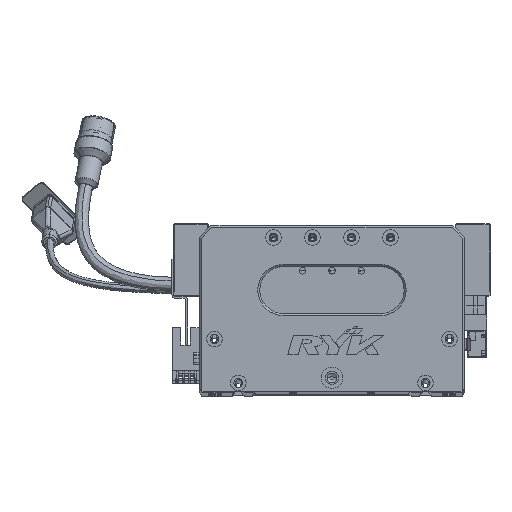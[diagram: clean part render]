
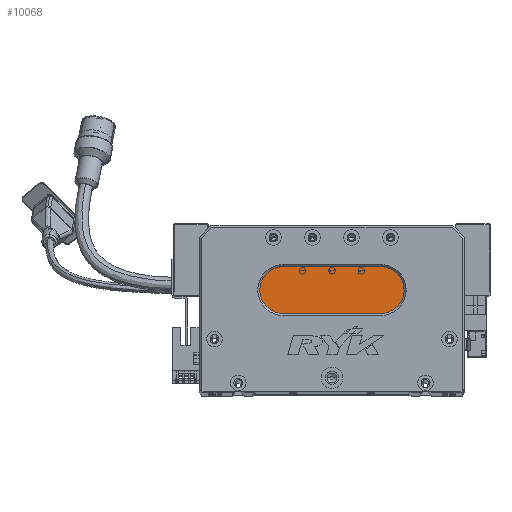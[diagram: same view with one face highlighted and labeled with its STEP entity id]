
A CAD part, top view. The second image highlights one B-rep face of the part: STEP entity #10068.
In plain terms, the highlighted planar face has unit normal (0, 0, 1) as drawn and (0, 0, -1) by its records, which use the part's own axes.
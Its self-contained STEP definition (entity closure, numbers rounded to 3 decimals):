
#172 = PLANE ( 'NONE',  #22821 ) ;
#6010 = CARTESIAN_POINT ( 'NONE',  ( 31., 52., 13. ) ) ;
#7843 = AXIS2_PLACEMENT_3D ( 'NONE', #33854, #54584, #61471 ) ;
#8288 = DIRECTION ( 'NONE',  ( -1., 0., 0. ) ) ;
#9549 = CARTESIAN_POINT ( 'NONE',  ( 93., 64., 13. ) ) ;
#10068 = ADVANCED_FACE ( 'NONE', ( #34088 ), #172, .T. ) ;
#11518 = CARTESIAN_POINT ( 'NONE',  ( 93., 64., 13. ) ) ;
#11894 = ORIENTED_EDGE ( 'NONE', *, *, #31680, .T. ) ;
#13527 = DIRECTION ( 'NONE',  ( -1., 0., 0. ) ) ;
#16233 = VERTEX_POINT ( 'NONE', #35785 ) ;
#21263 = DIRECTION ( 'NONE',  ( 0., 0., -1. ) ) ;
#22751 = CARTESIAN_POINT ( 'NONE',  ( 93., 40., 13. ) ) ;
#22821 = AXIS2_PLACEMENT_3D ( 'NONE', #55232, #21263, #54936 ) ;
#22999 = ORIENTED_EDGE ( 'NONE', *, *, #37663, .T. ) ;
#27332 = AXIS2_PLACEMENT_3D ( 'NONE', #47342, #32612, #46421 ) ;
#29581 = AXIS2_PLACEMENT_3D ( 'NONE', #40941, #47841, #13527 ) ;
#30480 = EDGE_LOOP ( 'NONE', ( #48778, #48851, #11894, #61598, #22999 ) ) ;
#31680 = EDGE_CURVE ( 'NONE', #16233, #68787, #54002, .T. ) ;
#32612 = DIRECTION ( 'NONE',  ( 0., 0., -1. ) ) ;
#33694 = EDGE_CURVE ( 'NONE', #68787, #87673, #47221, .T. ) ;
#33854 = CARTESIAN_POINT ( 'NONE',  ( 43., 52., 13. ) ) ;
#34088 = FACE_OUTER_BOUND ( 'NONE', #30480, .T. ) ;
#35785 = CARTESIAN_POINT ( 'NONE',  ( 43., 40., 13. ) ) ;
#37663 = EDGE_CURVE ( 'NONE', #87673, #87192, #81103, .T. ) ;
#40859 = VECTOR ( 'NONE', #8288, 1000. ) ;
#40941 = CARTESIAN_POINT ( 'NONE',  ( 43., 52., 13. ) ) ;
#41139 = VERTEX_POINT ( 'NONE', #81093 ) ;
#44570 = EDGE_CURVE ( 'NONE', #87192, #41139, #50061, .T. ) ;
#46421 = DIRECTION ( 'NONE',  ( -1., 0., 0. ) ) ;
#47221 = CIRCLE ( 'NONE', #7843, 12. ) ;
#47342 = CARTESIAN_POINT ( 'NONE',  ( 93., 52., 13. ) ) ;
#47841 = DIRECTION ( 'NONE',  ( 0., 0., -1. ) ) ;
#48778 = ORIENTED_EDGE ( 'NONE', *, *, #44570, .T. ) ;
#48851 = ORIENTED_EDGE ( 'NONE', *, *, #57890, .T. ) ;
#50061 = CIRCLE ( 'NONE', #27332, 12. ) ;
#53305 = DIRECTION ( 'NONE',  ( 1., 0., 0. ) ) ;
#54002 = CIRCLE ( 'NONE', #29581, 12. ) ;
#54584 = DIRECTION ( 'NONE',  ( 0., 0., -1. ) ) ;
#54936 = DIRECTION ( 'NONE',  ( -1., 0., 0. ) ) ;
#55232 = CARTESIAN_POINT ( 'NONE',  ( 93., 52., 13. ) ) ;
#57890 = EDGE_CURVE ( 'NONE', #41139, #16233, #84870, .T. ) ;
#61471 = DIRECTION ( 'NONE',  ( -1., 0., 0. ) ) ;
#61598 = ORIENTED_EDGE ( 'NONE', *, *, #33694, .T. ) ;
#62801 = VECTOR ( 'NONE', #53305, 1000. ) ;
#68787 = VERTEX_POINT ( 'NONE', #6010 ) ;
#81093 = CARTESIAN_POINT ( 'NONE',  ( 93., 40., 13. ) ) ;
#81103 = LINE ( 'NONE', #11518, #62801 ) ;
#81286 = CARTESIAN_POINT ( 'NONE',  ( 43., 64., 13. ) ) ;
#84870 = LINE ( 'NONE', #22751, #40859 ) ;
#87192 = VERTEX_POINT ( 'NONE', #9549 ) ;
#87673 = VERTEX_POINT ( 'NONE', #81286 ) ;
